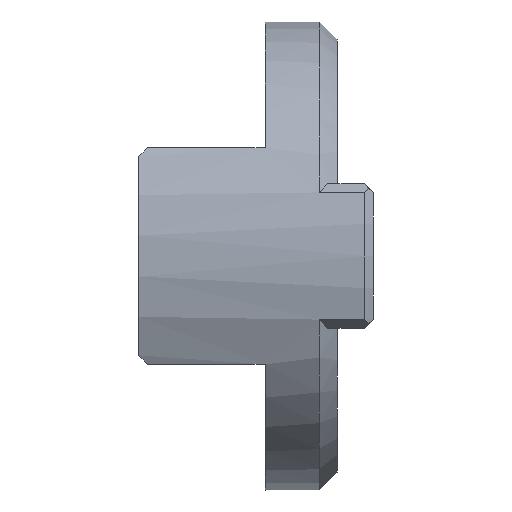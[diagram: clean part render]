
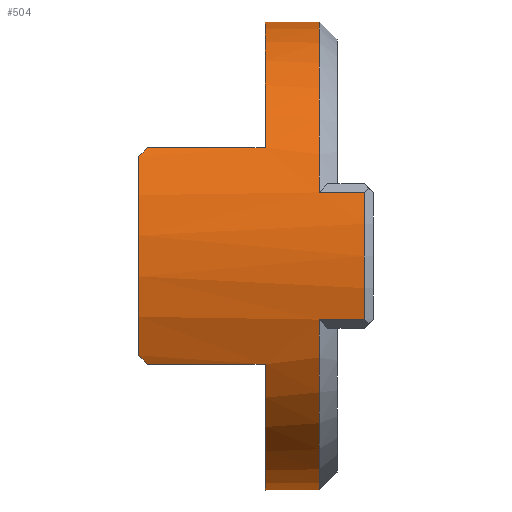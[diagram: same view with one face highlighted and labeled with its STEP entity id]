
A CAD part, left-side view. The second image highlights one B-rep face of the part: STEP entity #504.
In plain terms, the highlighted cylindrical face has radius 13 mm (diameter 26 mm), a full revolution.
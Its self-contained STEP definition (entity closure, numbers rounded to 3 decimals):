
#41=CYLINDRICAL_SURFACE('',#562,13.);
#47=CIRCLE('',#555,13.);
#48=CIRCLE('',#556,13.);
#49=CIRCLE('',#557,13.);
#51=CIRCLE('',#563,13.);
#52=CIRCLE('',#564,13.);
#53=CIRCLE('',#565,13.);
#54=CIRCLE('',#566,13.);
#55=CIRCLE('',#567,13.);
#56=CIRCLE('',#568,13.);
#57=CIRCLE('',#569,13.);
#69=FACE_OUTER_BOUND('',#97,.T.);
#97=EDGE_LOOP('',(#341,#342,#343,#344,#345,#346,#347,#348,#349,#350,#351,
#352,#353,#354,#355,#356,#357,#358,#359,#360,#361,#362,#363,#364));
#127=LINE('',#766,#162);
#128=LINE('',#770,#163);
#129=LINE('',#774,#164);
#130=LINE('',#778,#165);
#131=LINE('',#782,#166);
#132=LINE('',#785,#167);
#133=LINE('',#788,#168);
#134=LINE('',#790,#169);
#135=LINE('',#793,#170);
#162=VECTOR('',#631,13.);
#163=VECTOR('',#634,10.);
#164=VECTOR('',#637,10.);
#165=VECTOR('',#640,10.);
#166=VECTOR('',#643,10.);
#167=VECTOR('',#646,10.);
#168=VECTOR('',#649,10.);
#169=VECTOR('',#650,10.);
#170=VECTOR('',#653,10.);
#193=ELLIPSE('',#552,18.385,13.);
#194=ELLIPSE('',#553,18.385,13.);
#195=ELLIPSE('',#560,18.385,13.);
#196=ELLIPSE('',#561,18.385,13.);
#197=VERTEX_POINT('',#740);
#198=VERTEX_POINT('',#741);
#199=VERTEX_POINT('',#743);
#200=VERTEX_POINT('',#745);
#201=VERTEX_POINT('',#749);
#202=VERTEX_POINT('',#751);
#203=VERTEX_POINT('',#753);
#205=VERTEX_POINT('',#759);
#206=VERTEX_POINT('',#761);
#207=VERTEX_POINT('',#765);
#208=VERTEX_POINT('',#767);
#209=VERTEX_POINT('',#769);
#210=VERTEX_POINT('',#771);
#211=VERTEX_POINT('',#773);
#212=VERTEX_POINT('',#775);
#213=VERTEX_POINT('',#777);
#214=VERTEX_POINT('',#779);
#215=VERTEX_POINT('',#781);
#216=VERTEX_POINT('',#784);
#217=VERTEX_POINT('',#786);
#218=VERTEX_POINT('',#789);
#219=VERTEX_POINT('',#791);
#249=EDGE_CURVE('',#197,#198,#193,.T.);
#251=EDGE_CURVE('',#199,#200,#194,.T.);
#253=EDGE_CURVE('',#198,#201,#47,.T.);
#255=EDGE_CURVE('',#202,#203,#48,.T.);
#256=EDGE_CURVE('',#203,#199,#49,.T.);
#258=EDGE_CURVE('',#205,#202,#195,.T.);
#259=EDGE_CURVE('',#201,#206,#196,.T.);
#261=EDGE_CURVE('',#203,#207,#127,.T.);
#262=EDGE_CURVE('',#208,#207,#51,.T.);
#263=EDGE_CURVE('',#209,#208,#128,.T.);
#264=EDGE_CURVE('',#210,#209,#52,.T.);
#265=EDGE_CURVE('',#211,#210,#129,.T.);
#266=EDGE_CURVE('',#212,#211,#53,.T.);
#267=EDGE_CURVE('',#213,#212,#130,.T.);
#268=EDGE_CURVE('',#214,#213,#54,.T.);
#269=EDGE_CURVE('',#215,#214,#131,.T.);
#270=EDGE_CURVE('',#207,#215,#55,.T.);
#271=EDGE_CURVE('',#205,#216,#132,.T.);
#272=EDGE_CURVE('',#216,#217,#56,.T.);
#273=EDGE_CURVE('',#217,#206,#133,.T.);
#274=EDGE_CURVE('',#197,#218,#134,.T.);
#275=EDGE_CURVE('',#218,#219,#57,.T.);
#276=EDGE_CURVE('',#219,#200,#135,.T.);
#341=ORIENTED_EDGE('',*,*,#251,.F.);
#342=ORIENTED_EDGE('',*,*,#256,.F.);
#343=ORIENTED_EDGE('',*,*,#261,.T.);
#344=ORIENTED_EDGE('',*,*,#262,.F.);
#345=ORIENTED_EDGE('',*,*,#263,.F.);
#346=ORIENTED_EDGE('',*,*,#264,.F.);
#347=ORIENTED_EDGE('',*,*,#265,.F.);
#348=ORIENTED_EDGE('',*,*,#266,.F.);
#349=ORIENTED_EDGE('',*,*,#267,.F.);
#350=ORIENTED_EDGE('',*,*,#268,.F.);
#351=ORIENTED_EDGE('',*,*,#269,.F.);
#352=ORIENTED_EDGE('',*,*,#270,.F.);
#353=ORIENTED_EDGE('',*,*,#261,.F.);
#354=ORIENTED_EDGE('',*,*,#255,.F.);
#355=ORIENTED_EDGE('',*,*,#258,.F.);
#356=ORIENTED_EDGE('',*,*,#271,.T.);
#357=ORIENTED_EDGE('',*,*,#272,.T.);
#358=ORIENTED_EDGE('',*,*,#273,.T.);
#359=ORIENTED_EDGE('',*,*,#259,.F.);
#360=ORIENTED_EDGE('',*,*,#253,.F.);
#361=ORIENTED_EDGE('',*,*,#249,.F.);
#362=ORIENTED_EDGE('',*,*,#274,.T.);
#363=ORIENTED_EDGE('',*,*,#275,.T.);
#364=ORIENTED_EDGE('',*,*,#276,.T.);
#504=ADVANCED_FACE('',(#69),#41,.T.);
#552=AXIS2_PLACEMENT_3D('',#742,#605,#606);
#553=AXIS2_PLACEMENT_3D('',#746,#608,#609);
#555=AXIS2_PLACEMENT_3D('',#750,#613,#614);
#556=AXIS2_PLACEMENT_3D('',#754,#616,#617);
#557=AXIS2_PLACEMENT_3D('',#755,#618,#619);
#560=AXIS2_PLACEMENT_3D('',#760,#624,#625);
#561=AXIS2_PLACEMENT_3D('',#762,#626,#627);
#562=AXIS2_PLACEMENT_3D('',#764,#629,#630);
#563=AXIS2_PLACEMENT_3D('',#768,#632,#633);
#564=AXIS2_PLACEMENT_3D('',#772,#635,#636);
#565=AXIS2_PLACEMENT_3D('',#776,#638,#639);
#566=AXIS2_PLACEMENT_3D('',#780,#641,#642);
#567=AXIS2_PLACEMENT_3D('',#783,#644,#645);
#568=AXIS2_PLACEMENT_3D('',#787,#647,#648);
#569=AXIS2_PLACEMENT_3D('',#792,#651,#652);
#605=DIRECTION('center_axis',(0.,0.707,-0.707));
#606=DIRECTION('ref_axis',(0.,0.707,0.707));
#608=DIRECTION('center_axis',(0.,0.707,-0.707));
#609=DIRECTION('ref_axis',(0.,0.707,0.707));
#613=DIRECTION('center_axis',(0.,1.,0.));
#614=DIRECTION('ref_axis',(1.,0.,0.));
#616=DIRECTION('center_axis',(0.,1.,0.));
#617=DIRECTION('ref_axis',(1.,0.,0.));
#618=DIRECTION('center_axis',(0.,1.,0.));
#619=DIRECTION('ref_axis',(1.,0.,0.));
#624=DIRECTION('center_axis',(0.,0.707,0.707));
#625=DIRECTION('ref_axis',(0.,-0.707,0.707));
#626=DIRECTION('center_axis',(0.,0.707,0.707));
#627=DIRECTION('ref_axis',(0.,-0.707,0.707));
#629=DIRECTION('center_axis',(0.,1.,0.));
#630=DIRECTION('ref_axis',(-1.,0.,0.));
#631=DIRECTION('',(0.,-1.,0.));
#632=DIRECTION('center_axis',(0.,-1.,0.));
#633=DIRECTION('ref_axis',(1.,0.,0.));
#634=DIRECTION('',(0.,-1.,0.));
#635=DIRECTION('center_axis',(0.,-1.,0.));
#636=DIRECTION('ref_axis',(-1.,0.,0.));
#637=DIRECTION('',(0.,1.,0.));
#638=DIRECTION('center_axis',(0.,-1.,0.));
#639=DIRECTION('ref_axis',(-1.,0.,0.));
#640=DIRECTION('',(0.,-1.,0.));
#641=DIRECTION('center_axis',(0.,-1.,0.));
#642=DIRECTION('ref_axis',(-1.,0.,0.));
#643=DIRECTION('',(0.,1.,0.));
#644=DIRECTION('center_axis',(0.,-1.,0.));
#645=DIRECTION('ref_axis',(1.,0.,0.));
#646=DIRECTION('',(0.,-1.,0.));
#647=DIRECTION('center_axis',(0.,-1.,0.));
#648=DIRECTION('ref_axis',(-1.,0.,0.));
#649=DIRECTION('',(0.,1.,0.));
#650=DIRECTION('',(0.,-1.,0.));
#651=DIRECTION('center_axis',(0.,-1.,0.));
#652=DIRECTION('ref_axis',(-1.,0.,0.));
#653=DIRECTION('',(0.,1.,0.));
#740=CARTESIAN_POINT('',(-11.533,12.5,-6.));
#741=CARTESIAN_POINT('',(-11.779,13.,-5.5));
#742=CARTESIAN_POINT('Origin',(0.,18.5,0.));
#743=CARTESIAN_POINT('',(11.779,13.,-5.5));
#745=CARTESIAN_POINT('',(11.533,12.5,-6.));
#746=CARTESIAN_POINT('Origin',(0.,18.5,0.));
#749=CARTESIAN_POINT('',(-11.779,13.,5.5));
#750=CARTESIAN_POINT('Origin',(0.,13.,0.));
#751=CARTESIAN_POINT('',(11.779,13.,5.5));
#753=CARTESIAN_POINT('',(13.,13.,0.));
#754=CARTESIAN_POINT('Origin',(0.,13.,0.));
#755=CARTESIAN_POINT('Origin',(0.,13.,0.));
#759=CARTESIAN_POINT('',(11.533,12.5,6.));
#760=CARTESIAN_POINT('Origin',(0.,18.5,0.));
#761=CARTESIAN_POINT('',(-11.533,12.5,6.));
#762=CARTESIAN_POINT('Origin',(0.,18.5,0.));
#764=CARTESIAN_POINT('Origin',(0.,6.5,0.));
#765=CARTESIAN_POINT('',(13.,0.5,0.));
#766=CARTESIAN_POINT('',(13.,6.5,0.));
#767=CARTESIAN_POINT('',(12.514,0.5,-3.521));
#768=CARTESIAN_POINT('Origin',(0.,0.5,0.));
#769=CARTESIAN_POINT('',(12.514,3.,-3.521));
#770=CARTESIAN_POINT('',(12.514,6.5,-3.521));
#771=CARTESIAN_POINT('',(-12.514,3.,-3.521));
#772=CARTESIAN_POINT('Origin',(0.,3.,0.));
#773=CARTESIAN_POINT('',(-12.514,0.5,-3.521));
#774=CARTESIAN_POINT('',(-12.514,6.5,-3.521));
#775=CARTESIAN_POINT('',(-12.514,0.5,3.521));
#776=CARTESIAN_POINT('Origin',(0.,0.5,0.));
#777=CARTESIAN_POINT('',(-12.514,3.,3.521));
#778=CARTESIAN_POINT('',(-12.514,6.5,3.521));
#779=CARTESIAN_POINT('',(12.514,3.,3.521));
#780=CARTESIAN_POINT('Origin',(0.,3.,0.));
#781=CARTESIAN_POINT('',(12.514,0.5,3.521));
#782=CARTESIAN_POINT('',(12.514,6.5,3.521));
#783=CARTESIAN_POINT('Origin',(0.,0.5,0.));
#784=CARTESIAN_POINT('',(11.533,6.,6.));
#785=CARTESIAN_POINT('',(11.533,6.5,6.));
#786=CARTESIAN_POINT('',(-11.533,6.,6.));
#787=CARTESIAN_POINT('Origin',(0.,6.,0.));
#788=CARTESIAN_POINT('',(-11.533,6.5,6.));
#789=CARTESIAN_POINT('',(-11.533,6.,-6.));
#790=CARTESIAN_POINT('',(-11.533,6.5,-6.));
#791=CARTESIAN_POINT('',(11.533,6.,-6.));
#792=CARTESIAN_POINT('Origin',(0.,6.,0.));
#793=CARTESIAN_POINT('',(11.533,6.5,-6.));
